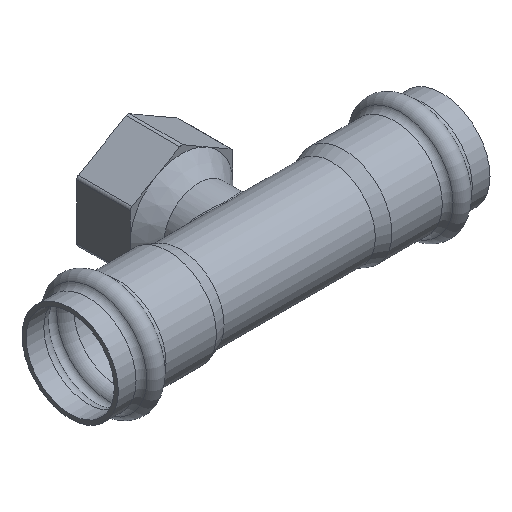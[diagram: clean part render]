
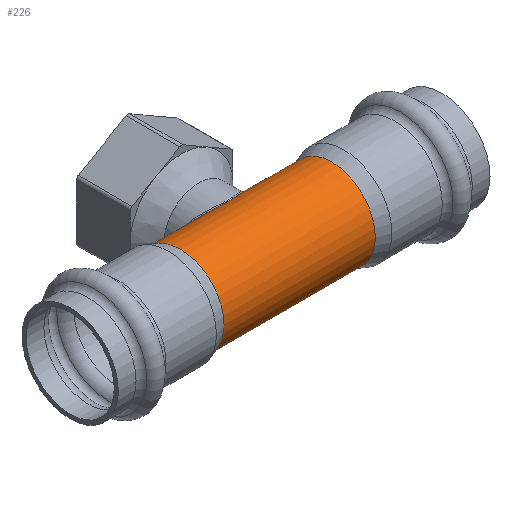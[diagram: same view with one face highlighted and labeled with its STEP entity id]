
A CAD part, isometric view. The second image highlights one B-rep face of the part: STEP entity #226.
In plain terms, the highlighted cylindrical face has radius 12.7 mm (diameter 25.4 mm), a full revolution.
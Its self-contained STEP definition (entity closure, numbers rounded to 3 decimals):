
#117=CYLINDRICAL_SURFACE('',#856,12.7);
#136=B_SPLINE_CURVE_WITH_KNOTS('',3,(#1260,#1261,#1262,#1263,#1264,#1265,
#1266,#1267,#1268,#1269,#1270,#1271,#1272,#1273,#1274,#1275,#1276,#1277,
#1278,#1279,#1280,#1281,#1282,#1283,#1284,#1285,#1286,#1287,#1288,#1289,
#1290,#1291,#1292,#1293),.UNSPECIFIED.,.T.,.F.,(2,2,2,2,2,2,2,2,2,2,2,2,
2,2,2,2,2,2,2),(-0.062,0.,0.063,0.125,0.188,0.25,0.313,0.375,
0.438,0.5,0.563,0.625,0.688,0.75,0.813,0.875,0.938,1.,1.063),.UNSPECIFIED.);
#141=FACE_BOUND('',#314,.T.);
#142=FACE_BOUND('',#315,.T.);
#143=FACE_BOUND('',#316,.T.);
#226=ADVANCED_FACE('',(#141,#142,#143),#117,.T.);
#314=EDGE_LOOP('',(#510));
#315=EDGE_LOOP('',(#511));
#316=EDGE_LOOP('',(#512));
#411=CIRCLE('',#854,12.7);
#412=CIRCLE('',#855,12.7);
#510=ORIENTED_EDGE('',*,*,#726,.T.);
#511=ORIENTED_EDGE('',*,*,#727,.F.);
#512=ORIENTED_EDGE('',*,*,#728,.T.);
#642=VERTEX_POINT('',#1294);
#643=VERTEX_POINT('',#1296);
#644=VERTEX_POINT('',#1298);
#726=EDGE_CURVE('',#642,#642,#136,.T.);
#727=EDGE_CURVE('',#643,#643,#411,.T.);
#728=EDGE_CURVE('',#644,#644,#412,.T.);
#854=AXIS2_PLACEMENT_3D('',#1295,#1022,#1023);
#855=AXIS2_PLACEMENT_3D('',#1297,#1024,#1025);
#856=AXIS2_PLACEMENT_3D('',#1299,#1026,#1027);
#1022=DIRECTION('',(-1.,0.,0.));
#1023=DIRECTION('',(0.,0.,1.));
#1024=DIRECTION('',(-1.,0.,0.));
#1025=DIRECTION('',(0.,0.,1.));
#1026=DIRECTION('',(-1.,0.,0.));
#1027=DIRECTION('',(0.,0.,1.));
#1260=CARTESIAN_POINT('',(-1.477,7.57,-10.197));
#1261=CARTESIAN_POINT('',(1.477,7.57,-10.197));
#1262=CARTESIAN_POINT('',(2.899,7.964,-9.919));
#1263=CARTESIAN_POINT('',(5.453,9.041,-8.948));
#1264=CARTESIAN_POINT('',(6.573,9.694,-8.275));
#1265=CARTESIAN_POINT('',(8.567,10.951,-6.522));
#1266=CARTESIAN_POINT('',(9.395,11.534,-5.482));
#1267=CARTESIAN_POINT('',(10.634,12.424,-2.954));
#1268=CARTESIAN_POINT('',(10.991,12.693,-1.511));
#1269=CARTESIAN_POINT('',(11.009,12.707,1.395));
#1270=CARTESIAN_POINT('',(10.666,12.448,2.854));
#1271=CARTESIAN_POINT('',(9.455,11.576,5.392));
#1272=CARTESIAN_POINT('',(8.611,10.981,6.47));
#1273=CARTESIAN_POINT('',(6.64,9.734,8.228));
#1274=CARTESIAN_POINT('',(5.499,9.068,8.921));
#1275=CARTESIAN_POINT('',(2.987,7.994,9.895));
#1276=CARTESIAN_POINT('',(1.546,7.582,10.188));
#1277=CARTESIAN_POINT('',(-1.407,7.559,10.206));
#1278=CARTESIAN_POINT('',(-2.844,7.946,9.933));
#1279=CARTESIAN_POINT('',(-5.401,9.014,8.975));
#1280=CARTESIAN_POINT('',(-6.541,9.676,8.296));
#1281=CARTESIAN_POINT('',(-8.536,10.93,6.555));
#1282=CARTESIAN_POINT('',(-9.386,11.527,5.496));
#1283=CARTESIAN_POINT('',(-10.632,12.422,2.964));
#1284=CARTESIAN_POINT('',(-10.991,12.693,1.515));
#1285=CARTESIAN_POINT('',(-11.009,12.706,-1.4));
#1286=CARTESIAN_POINT('',(-10.664,12.446,-2.863));
#1287=CARTESIAN_POINT('',(-9.446,11.57,-5.408));
#1288=CARTESIAN_POINT('',(-8.597,10.971,-6.487));
#1289=CARTESIAN_POINT('',(-6.616,9.72,-8.245));
#1290=CARTESIAN_POINT('',(-5.471,9.052,-8.938));
#1291=CARTESIAN_POINT('',(-2.928,7.974,-9.912));
#1292=CARTESIAN_POINT('',(-1.477,7.57,-10.197));
#1293=CARTESIAN_POINT('',(1.477,7.57,-10.197));
#1294=CARTESIAN_POINT('',(0.,7.57,-10.197));
#1295=CARTESIAN_POINT('',(-21.982,0.,0.));
#1296=CARTESIAN_POINT('',(-21.982,0.,12.7));
#1297=CARTESIAN_POINT('',(21.982,0.,0.));
#1298=CARTESIAN_POINT('',(21.982,0.,12.7));
#1299=CARTESIAN_POINT('',(-10.,0.,0.));
